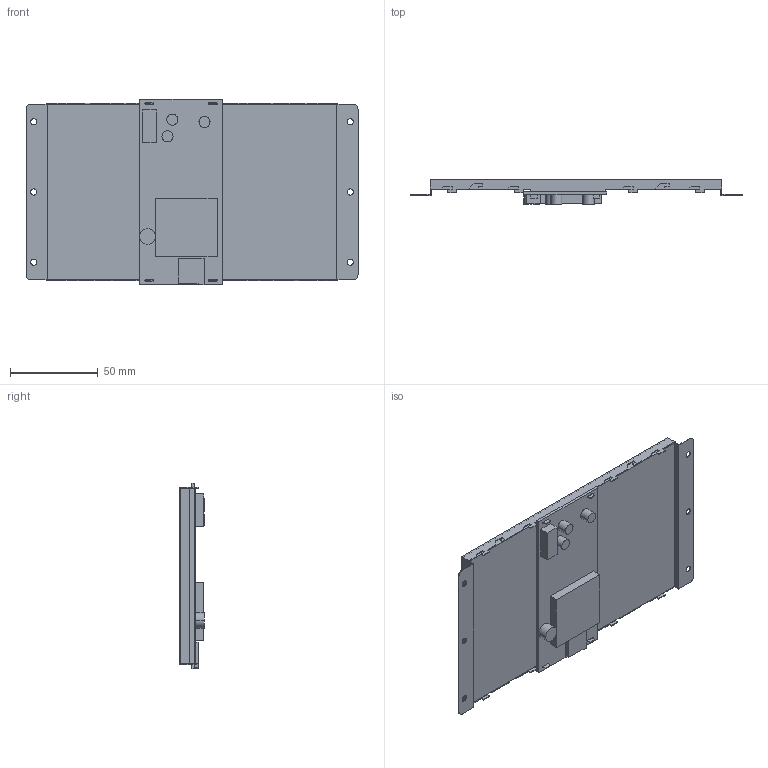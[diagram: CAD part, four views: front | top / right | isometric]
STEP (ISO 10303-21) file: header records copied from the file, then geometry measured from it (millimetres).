
FILE_DESCRIPTION((''),'2;1');
FILE_NAME('DMG80480Y070-02NR','2021-09-16T',('Administrator'),(''),'PRO/ENGINEER BY PARAMETRIC TECHNOLOGY CORPORATION, 2008380','PRO/ENGINEER BY PARAMETRIC TECHNOLOGY CORPORATION, 2008380','');
FILE_SCHEMA(('CONFIG_CONTROL_DESIGN'));
Length unit declared in the file: millimetre
Products named in the file (1): DMG80480Y070-02NR
Bounding box: 189.1 x 14.55 x 105.41 mm (x, y, z)
Volume: 104287.1 mm3; surface area: 60625.9 mm2
Topology: 1 solids, 1 shells, 220 faces, 642 edges, 424 vertices
Faces by surface type: plane 188, cylinder 32
Entity records: 7274 total; most frequent: CARTESIAN_POINT 1283, ORIENTED_EDGE 1276, DIRECTION 1160, EDGE_CURVE 638, VECTOR 566, LINE 566, VERTEX_POINT 420, AXIS2_PLACEMENT_3D 297
